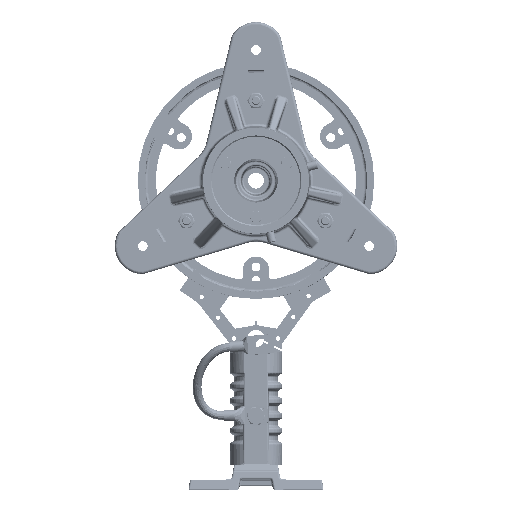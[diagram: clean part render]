
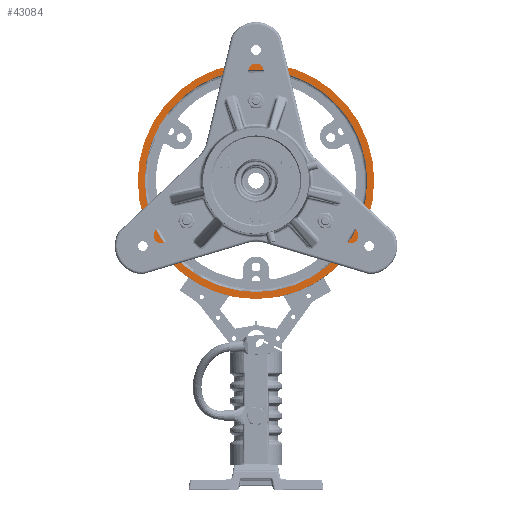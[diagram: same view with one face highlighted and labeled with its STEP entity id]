
A CAD part, front view. The second image highlights one B-rep face of the part: STEP entity #43084.
In plain terms, the highlighted planar face has unit normal (0, -1, 0).
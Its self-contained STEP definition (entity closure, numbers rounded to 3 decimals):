
#1498=PLANE('',#46568);
#7098=FACE_BOUND('',#11995,.T.);
#8726=FACE_OUTER_BOUND('',#11994,.T.);
#11994=EDGE_LOOP('',(#29311));
#11995=EDGE_LOOP('',(#29312));
#16042=CIRCLE('',#46560,135.);
#16049=CIRCLE('',#46569,127.);
#18976=VERTEX_POINT('',#68602);
#18987=VERTEX_POINT('',#68626);
#23016=EDGE_CURVE('',#18976,#18976,#16042,.T.);
#23027=EDGE_CURVE('',#18987,#18987,#16049,.T.);
#29311=ORIENTED_EDGE('',*,*,#23016,.F.);
#29312=ORIENTED_EDGE('',*,*,#23027,.F.);
#43084=ADVANCED_FACE('',(#8726,#7098),#1498,.F.);
#46560=AXIS2_PLACEMENT_3D('',#68603,#53663,#53664);
#46568=AXIS2_PLACEMENT_3D('',#68625,#53683,#53684);
#46569=AXIS2_PLACEMENT_3D('',#68627,#53685,#53686);
#53663=DIRECTION('center_axis',(0.,1.,0.));
#53664=DIRECTION('ref_axis',(-0.866,0.,0.5));
#53683=DIRECTION('center_axis',(0.,1.,0.));
#53684=DIRECTION('ref_axis',(0.866,0.,-0.5));
#53685=DIRECTION('center_axis',(0.,-1.,0.));
#53686=DIRECTION('ref_axis',(-0.866,0.,0.5));
#68602=CARTESIAN_POINT('',(-54.389,89.154,564.064));
#68603=CARTESIAN_POINT('Origin',(62.524,89.154,496.564));
#68625=CARTESIAN_POINT('Origin',(62.524,89.154,496.564));
#68626=CARTESIAN_POINT('',(-47.461,89.154,560.064));
#68627=CARTESIAN_POINT('Origin',(62.524,89.154,496.564));
